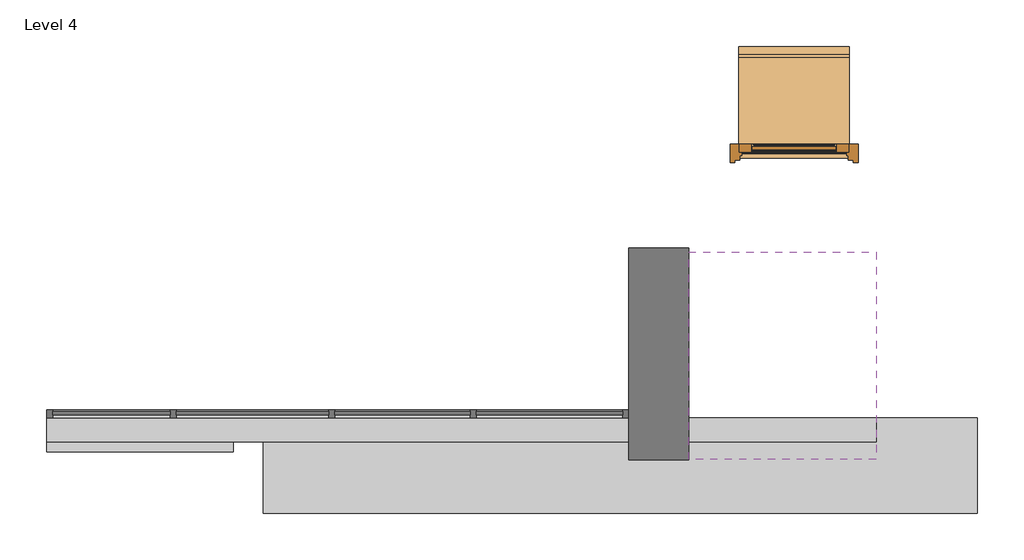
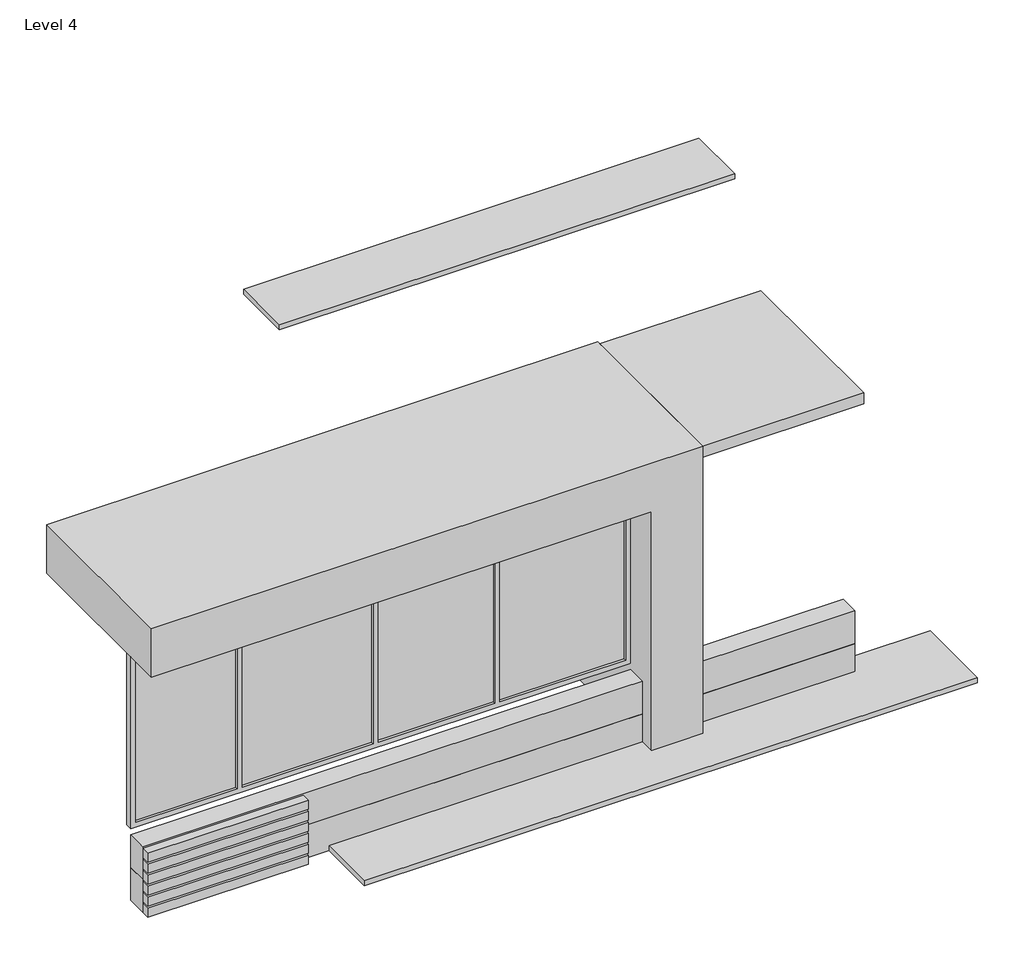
# One storey: 6 proxies, 1 door.
"""IFC4 building model written with IfcOpenShell, lengths in millimetres."""

from ifc_helpers import new_model, si_unit, origin, place, context, project, spatial, transform, mapped, element, save
from components import generic_models_12_generic_models_12_50780c83, generic_models_13_generic_models_3_8eee40ac, generic_models_16_generic_models_16_f0286e52, generic_models_23_generic_models_23_ff8ade86, generic_models_8_generic_models_2_60aeb7b6, generic_models_9_generic_models_4_810ed2ac, door_1_lite_exterior_door_11236_3070_4d0df540

model = new_model("IFC4")

# Units and contexts
model_context = context("Model", 3, world=origin())
ifc_project = project(units=[si_unit("LENGTHUNIT", "METRE", prefix="MILLI")], contexts=[model_context])

# Site, building, storey
site = spatial("IfcSite", under=ifc_project)
building = spatial("IfcBuilding", under=site)
storey = spatial("IfcBuildingStorey", under=building, Name="Level 4", Elevation=9000.0)

# Proxies
placement = place(None, origin())
generic_models_12_generic_models_12_shape = generic_models_12_generic_models_12_50780c83(model_context)
element("IfcBuildingElementProxy", 1, Name="Generic Models 12 : Generic Models 12", ObjectType="Generic Models 12 : Generic Models 12", at=placement, inside=storey, context=model_context, shape_type="MappedRepresentation", body=[
    mapped(generic_models_12_generic_models_12_shape, transform((0.0, 0.0, 0.0), x_axis=(1.0, 0.0, 0.0), y_axis=(0.0, 1.0, 0.0), z_axis=(0.0, 0.0, 1.0))),
])
generic_models_13_generic_models_3_shape = generic_models_13_generic_models_3_8eee40ac(model_context)
element("IfcBuildingElementProxy", 2, Name="Generic Models 13 : Generic Models 3", ObjectType="Generic Models 13 : Generic Models 3", at=placement, inside=storey, context=model_context, shape_type="MappedRepresentation", body=[
    mapped(generic_models_13_generic_models_3_shape, transform((0.0, 128.39366, 0.0), x_axis=(1.0, 0.0, 0.0), y_axis=(0.0, 1.0, 0.0), z_axis=(0.0, 0.0, 1.0))),
])
generic_models_16_generic_models_16_shape = generic_models_16_generic_models_16_f0286e52(model_context)
element("IfcBuildingElementProxy", 3, Name="Generic Models 16 : Generic Models 16", ObjectType="Generic Models 16 : Generic Models 16", at=placement, inside=storey, context=model_context, shape_type="MappedRepresentation", body=[
    mapped(generic_models_16_generic_models_16_shape, transform((0.0, 0.0, 0.0), x_axis=(1.0, 0.0, 0.0), y_axis=(0.0, 1.0, 0.0), z_axis=(0.0, 0.0, 1.0))),
])
generic_models_23_generic_models_23_shape = generic_models_23_generic_models_23_ff8ade86(model_context)
element("IfcBuildingElementProxy", 4, Name="Generic Models 23 : Generic Models 23", ObjectType="Generic Models 23 : Generic Models 23", at=placement, inside=storey, context=model_context, shape_type="MappedRepresentation", body=[
    mapped(generic_models_23_generic_models_23_shape, transform((0.0, 0.0, 0.0), x_axis=(1.0, 0.0, 0.0), y_axis=(0.0, 1.0, 0.0), z_axis=(0.0, 0.0, 1.0))),
])
generic_models_8_generic_models_2_shape = generic_models_8_generic_models_2_60aeb7b6(model_context)
element("IfcBuildingElementProxy", 5, Name="Generic Models 8 : Generic Models 2", ObjectType="Generic Models 8 : Generic Models 2", at=placement, inside=storey, context=model_context, shape_type="MappedRepresentation", body=[
    mapped(generic_models_8_generic_models_2_shape, transform((0.0, 0.0, 0.0), x_axis=(1.0, 0.0, 0.0), y_axis=(0.0, 1.0, 0.0), z_axis=(0.0, 0.0, 1.0))),
])
generic_models_9_generic_models_4_shape = generic_models_9_generic_models_4_810ed2ac(model_context)
element("IfcBuildingElementProxy", 6, Name="Generic Models 9 : Generic Models 4", ObjectType="Generic Models 9 : Generic Models 4", at=placement, inside=storey, context=model_context, shape_type="MappedRepresentation", body=[
    mapped(generic_models_9_generic_models_4_shape, transform((0.0, 0.0, 0.0), x_axis=(1.0, 0.0, 0.0), y_axis=(0.0, 1.0, 0.0), z_axis=(0.0, 0.0, 1.0))),
])

# Door
door_1_lite_exterior_door_11236_3070_shape = door_1_lite_exterior_door_11236_3070_4d0df540(model_context)
element("IfcDoor", 7, ObjectType="1_Lite_Exterior_door_11236 : 3070", at=placement, inside=storey, context=model_context, shape_type="MappedRepresentation", body=[
    mapped(door_1_lite_exterior_door_11236_3070_shape, transform((-4883.7055449, -1640.4148732, 9006.4), x_axis=(1.0, 0.0, 0.0), y_axis=(0.0, 1.0, 0.0), z_axis=(0.0, 0.0, 1.0))),
])

save(model, "model.ifc")
